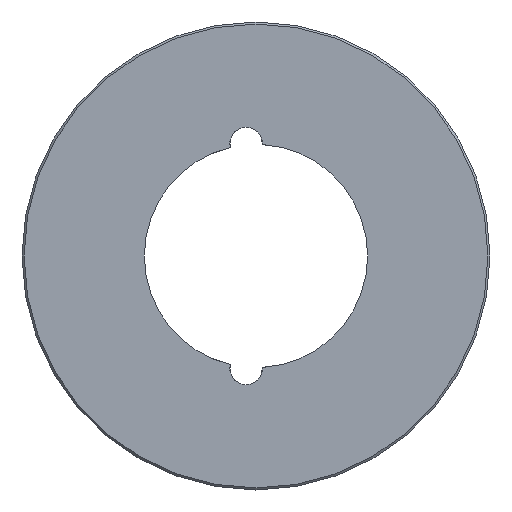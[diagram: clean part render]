
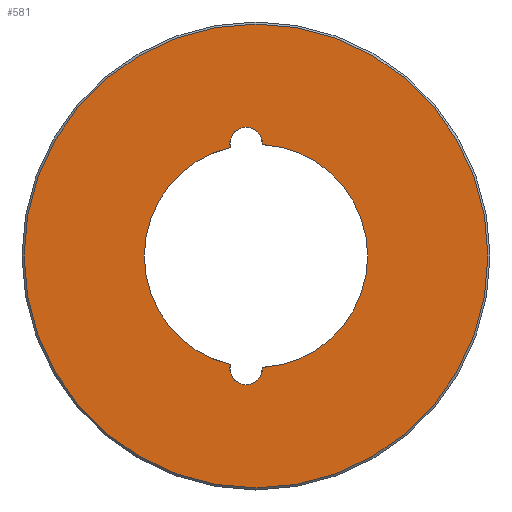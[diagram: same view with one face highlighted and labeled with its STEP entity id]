
A CAD part, left-side view. The second image highlights one B-rep face of the part: STEP entity #581.
In plain terms, the highlighted planar face has unit normal (-1, 0, 0).
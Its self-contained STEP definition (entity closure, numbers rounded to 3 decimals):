
#66=FACE_BOUND('',#207,.T.);
#77=PLANE('',#677);
#124=FACE_OUTER_BOUND('',#206,.T.);
#206=EDGE_LOOP('',(#497));
#207=EDGE_LOOP('',(#498,#499,#500,#501));
#229=CIRCLE('',#599,26.717);
#231=CIRCLE('',#602,3.899);
#233=CIRCLE('',#605,3.899);
#237=CIRCLE('',#611,26.717);
#270=CIRCLE('',#676,55.5);
#291=VERTEX_POINT('',#947);
#292=VERTEX_POINT('',#954);
#294=VERTEX_POINT('',#965);
#296=VERTEX_POINT('',#976);
#331=VERTEX_POINT('',#1088);
#347=EDGE_CURVE('',#291,#292,#229,.T.);
#350=EDGE_CURVE('',#294,#292,#231,.T.);
#354=EDGE_CURVE('',#291,#296,#233,.T.);
#358=EDGE_CURVE('',#294,#296,#237,.T.);
#391=EDGE_CURVE('',#331,#331,#270,.T.);
#497=ORIENTED_EDGE('',*,*,#391,.T.);
#498=ORIENTED_EDGE('',*,*,#350,.T.);
#499=ORIENTED_EDGE('',*,*,#347,.F.);
#500=ORIENTED_EDGE('',*,*,#354,.T.);
#501=ORIENTED_EDGE('',*,*,#358,.F.);
#581=ADVANCED_FACE('',(#124,#66),#77,.T.);
#599=AXIS2_PLACEMENT_3D('',#955,#709,#710);
#602=AXIS2_PLACEMENT_3D('',#966,#715,#716);
#605=AXIS2_PLACEMENT_3D('',#984,#721,#722);
#611=AXIS2_PLACEMENT_3D('',#991,#733,#734);
#676=AXIS2_PLACEMENT_3D('',#1089,#863,#864);
#677=AXIS2_PLACEMENT_3D('',#1090,#865,#866);
#709=DIRECTION('center_axis',(-1.,0.,0.));
#710=DIRECTION('ref_axis',(0.,0.,1.));
#715=DIRECTION('center_axis',(1.,0.,0.));
#716=DIRECTION('ref_axis',(0.,0.953,-0.302));
#721=DIRECTION('center_axis',(1.,0.,0.));
#722=DIRECTION('ref_axis',(0.,-0.991,0.132));
#733=DIRECTION('center_axis',(-1.,0.,0.));
#734=DIRECTION('ref_axis',(0.,0.,1.));
#863=DIRECTION('center_axis',(-1.,0.,0.));
#864=DIRECTION('ref_axis',(0.,0.,1.));
#865=DIRECTION('center_axis',(-1.,0.,0.));
#866=DIRECTION('ref_axis',(0.,0.,1.));
#947=CARTESIAN_POINT('',(-59.863,-1.541,36.224));
#954=CARTESIAN_POINT('',(-59.863,-1.541,89.569));
#955=CARTESIAN_POINT('Origin',(-59.863,0.,62.897));
#965=CARTESIAN_POINT('',(-59.863,6.149,88.896));
#966=CARTESIAN_POINT('Origin',(-59.863,2.352,89.782));
#976=CARTESIAN_POINT('',(-59.863,6.149,36.897));
#984=CARTESIAN_POINT('Origin',(-59.863,2.352,36.012));
#991=CARTESIAN_POINT('Origin',(-59.863,0.,62.897));
#1088=CARTESIAN_POINT('',(-59.863,0.,118.397));
#1089=CARTESIAN_POINT('Origin',(-59.863,0.,62.897));
#1090=CARTESIAN_POINT('Origin',(-59.863,0.,89.614));
